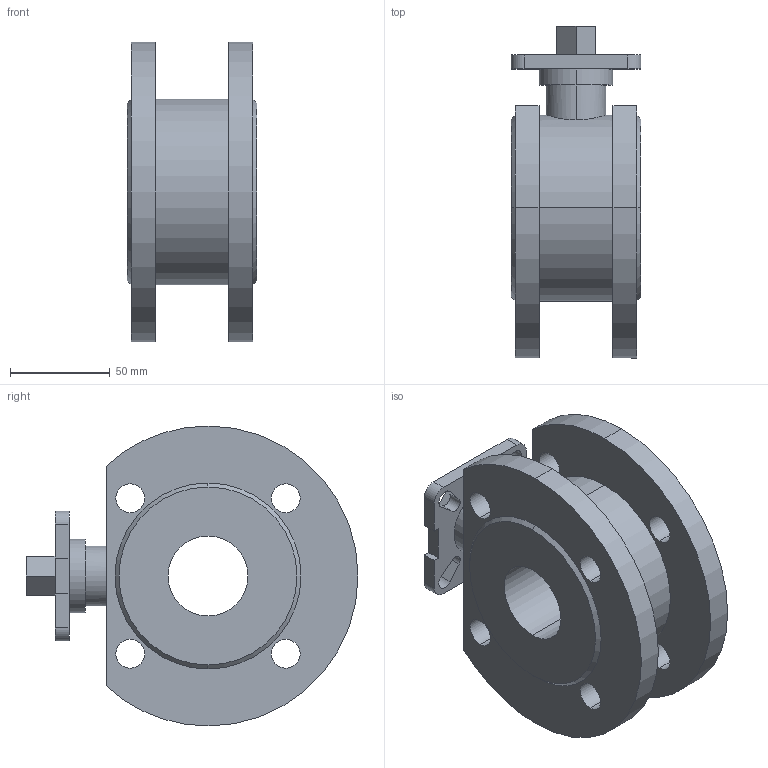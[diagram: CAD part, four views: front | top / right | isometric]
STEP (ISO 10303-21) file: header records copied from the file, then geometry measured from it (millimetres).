
FILE_DESCRIPTION (( 'STEP AP203' ), '1' );
FILE_NAME ('01.622I040016CP.STEP', '2018-10-23T07:48:50', ( '' ), ( '' ), 'SwSTEP 2.0', 'SolidWorks 2014', '' );
FILE_SCHEMA (( 'CONFIG_CONTROL_DESIGN' ));
Length unit declared in the file: millimetre
Products named in the file (1): 01.622I040016CP
Bounding box: 65 x 166 x 150 mm (x, y, z)
Volume: 607720.5 mm3; surface area: 91513.2 mm2
Topology: 1 solids, 1 shells, 86 faces, 228 edges, 152 vertices
Faces by surface type: cylinder 46, plane 36, cone 4
Entity records: 2933 total; most frequent: CARTESIAN_POINT 565, DIRECTION 498, ORIENTED_EDGE 456, EDGE_CURVE 228, AXIS2_PLACEMENT_3D 185, VERTEX_POINT 152, LINE 128, VECTOR 128
